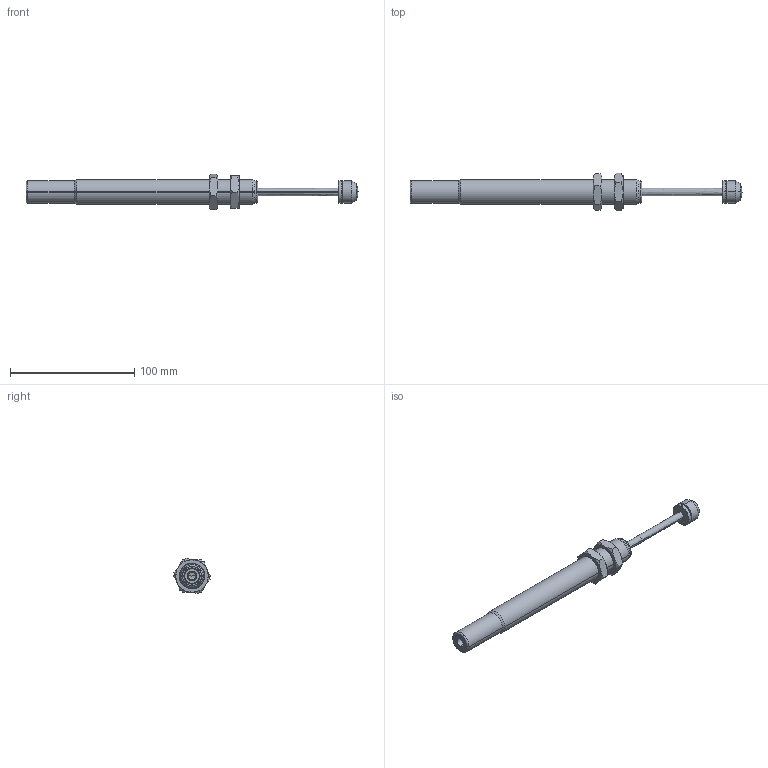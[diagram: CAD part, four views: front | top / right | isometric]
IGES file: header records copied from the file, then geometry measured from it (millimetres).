
Start section: SolidWorks IGES file using analytic representation for surfaces
Global section: file name: D:\IGS跡宒\AC2065-2K.IGS,1; native system: 5HSolidWorks 2013; preprocessor: SolidWorks 2013; author: Administrator; date: 160920.093658; units: inch
Bounding box: 267.2 x 30.02 x 28.36 mm (x, y, z)
Surface area: 18106.3 mm2 (no closed solid volume)
Topology: 0 solids, 0 shells, 102 faces, 1548 edges, 1547 vertices
Faces by surface type: revolution 74, bspline 28
